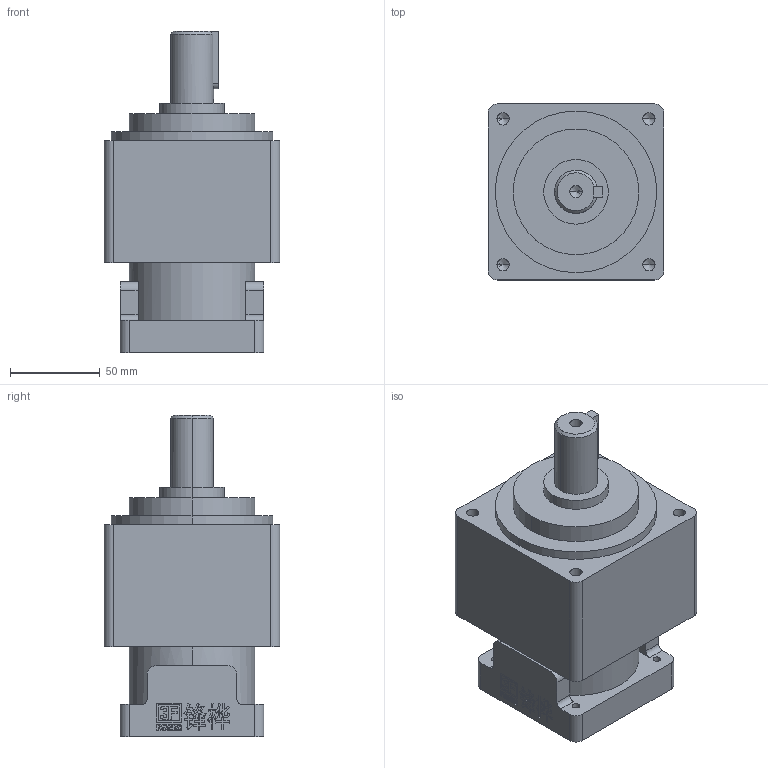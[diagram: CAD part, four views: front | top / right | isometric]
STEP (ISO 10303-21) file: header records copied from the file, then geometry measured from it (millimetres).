
FILE_DESCRIPTION (( 'STEP AP214' ), '1' );
FILE_NAME ('VRSF-100L2.STEP', '2019-09-09T02:29:49', ( '微软用户' ), ( '微软中国' ), 'SwSTEP 2.0', 'SolidWorks 2014', '' );
FILE_SCHEMA (( 'AUTOMOTIVE_DESIGN' ));
Length unit declared in the file: millimetre
Products named in the file (2): VRSF-100L2
Bounding box: 98 x 98 x 179 mm (x, y, z)
Volume: 970903.2 mm3; surface area: 78780.2 mm2
Topology: 2 solids, 2 shells, 724 faces, 2071 edges, 1372 vertices
Faces by surface type: plane 602, bspline 60, cylinder 50, cone 12
Entity records: 30439 total; most frequent: CARTESIAN_POINT 4979, ORIENTED_EDGE 4122, DIRECTION 3374, EDGE_CURVE 2061, LINE 1832, VECTOR 1832, VERTEX_POINT 1372, AXIS2_PLACEMENT_3D 771
